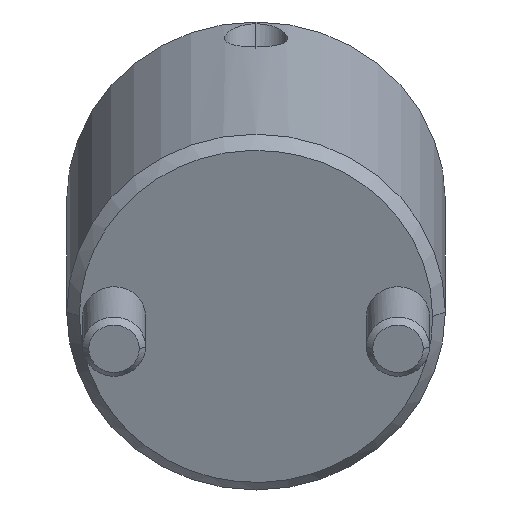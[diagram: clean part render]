
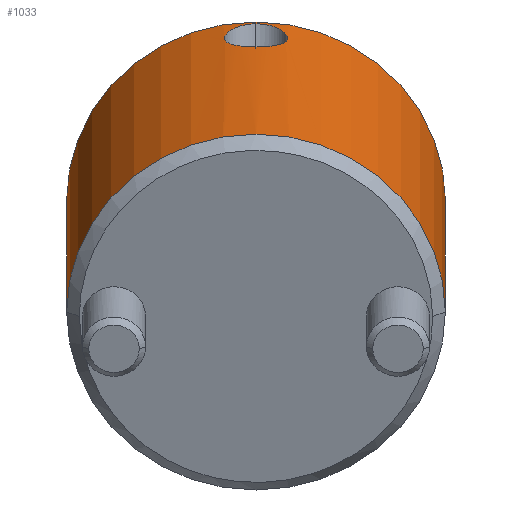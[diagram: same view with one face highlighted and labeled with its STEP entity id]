
A CAD part, front view. The second image highlights one B-rep face of the part: STEP entity #1033.
In plain terms, the highlighted cylindrical face has radius 15 mm (diameter 30 mm), a partial arc.
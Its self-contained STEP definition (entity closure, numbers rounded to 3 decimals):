
#790=CARTESIAN_POINT('Vertex',(0.,15.,1.)) ;
#793=CARTESIAN_POINT('Axis2P3D Location',(0.,0.,1.)) ;
#797=CARTESIAN_POINT('Vertex',(0.,-15.,1.)) ;
#937=CARTESIAN_POINT('Axis2P3D Location',(0.,0.,-1.4)) ;
#942=CARTESIAN_POINT('Line Origine',(0.,15.,-1.4)) ;
#946=CARTESIAN_POINT('Vertex',(0.,15.,27.)) ;
#949=CARTESIAN_POINT('Axis2P3D Location',(0.,0.,27.)) ;
#953=CARTESIAN_POINT('Vertex',(0.,-15.,27.)) ;
#956=CARTESIAN_POINT('Line Origine',(0.,-15.,-1.4)) ;
#968=CARTESIAN_POINT('Control Point',(15.,0.,26.57)) ;
#969=CARTESIAN_POINT('Control Point',(15.,0.072,26.57)) ;
#970=CARTESIAN_POINT('Control Point',(15.,0.143,26.567)) ;
#971=CARTESIAN_POINT('Control Point',(14.999,0.215,26.562)) ;
#972=CARTESIAN_POINT('Control Point',(14.995,0.43,26.536)) ;
#973=CARTESIAN_POINT('Control Point',(14.987,0.644,26.482)) ;
#974=CARTESIAN_POINT('Control Point',(14.98,0.791,26.433)) ;
#975=CARTESIAN_POINT('Control Point',(14.963,1.068,26.315)) ;
#976=CARTESIAN_POINT('Control Point',(14.943,1.321,26.156)) ;
#977=CARTESIAN_POINT('Control Point',(14.931,1.446,26.063)) ;
#978=CARTESIAN_POINT('Control Point',(14.888,1.86,25.706)) ;
#979=CARTESIAN_POINT('Control Point',(14.842,2.185,25.238)) ;
#980=CARTESIAN_POINT('Control Point',(14.813,2.362,24.853)) ;
#981=CARTESIAN_POINT('Control Point',(14.779,2.566,24.037)) ;
#982=CARTESIAN_POINT('Control Point',(14.794,2.477,23.216)) ;
#983=CARTESIAN_POINT('Control Point',(14.815,2.36,22.828)) ;
#984=CARTESIAN_POINT('Control Point',(14.861,2.062,22.266)) ;
#985=CARTESIAN_POINT('Control Point',(14.914,1.62,21.831)) ;
#986=CARTESIAN_POINT('Control Point',(14.933,1.437,21.688)) ;
#987=CARTESIAN_POINT('Control Point',(14.961,1.112,21.49)) ;
#988=CARTESIAN_POINT('Control Point',(14.982,0.75,21.358)) ;
#989=CARTESIAN_POINT('Control Point',(14.989,0.597,21.315)) ;
#990=CARTESIAN_POINT('Control Point',(14.996,0.388,21.273)) ;
#991=CARTESIAN_POINT('Control Point',(14.999,0.179,21.254)) ;
#992=CARTESIAN_POINT('Control Point',(15.,0.12,21.251)) ;
#993=CARTESIAN_POINT('Control Point',(15.,0.06,21.249)) ;
#994=CARTESIAN_POINT('Control Point',(15.,0.,21.249)) ;
#995=CARTESIAN_POINT('Vertex',(15.,0.,26.57)) ;
#997=CARTESIAN_POINT('Vertex',(15.,0.,21.249)) ;
#1001=CARTESIAN_POINT('Control Point',(15.,0.,21.249)) ;
#1002=CARTESIAN_POINT('Control Point',(15.,-0.15,21.249)) ;
#1003=CARTESIAN_POINT('Control Point',(14.998,-0.3,21.26)) ;
#1004=CARTESIAN_POINT('Control Point',(14.994,-0.45,21.283)) ;
#1005=CARTESIAN_POINT('Control Point',(14.983,-0.75,21.353)) ;
#1006=CARTESIAN_POINT('Control Point',(14.965,-1.037,21.468)) ;
#1007=CARTESIAN_POINT('Control Point',(14.955,-1.172,21.535)) ;
#1008=CARTESIAN_POINT('Control Point',(14.91,-1.699,21.849)) ;
#1009=CARTESIAN_POINT('Control Point',(14.854,-2.117,22.318)) ;
#1010=CARTESIAN_POINT('Control Point',(14.816,-2.347,22.745)) ;
#1011=CARTESIAN_POINT('Control Point',(14.787,-2.517,23.376)) ;
#1012=CARTESIAN_POINT('Control Point',(14.79,-2.501,24.027)) ;
#1013=CARTESIAN_POINT('Control Point',(14.793,-2.484,24.194)) ;
#1014=CARTESIAN_POINT('Control Point',(14.805,-2.414,24.603)) ;
#1015=CARTESIAN_POINT('Control Point',(14.827,-2.273,24.995)) ;
#1016=CARTESIAN_POINT('Control Point',(14.844,-2.163,25.22)) ;
#1017=CARTESIAN_POINT('Control Point',(14.881,-1.904,25.631)) ;
#1018=CARTESIAN_POINT('Control Point',(14.919,-1.572,25.969)) ;
#1019=CARTESIAN_POINT('Control Point',(14.937,-1.389,26.118)) ;
#1020=CARTESIAN_POINT('Control Point',(14.959,-1.134,26.282)) ;
#1021=CARTESIAN_POINT('Control Point',(14.976,-0.853,26.403)) ;
#1022=CARTESIAN_POINT('Control Point',(14.98,-0.782,26.431)) ;
#1023=CARTESIAN_POINT('Control Point',(14.989,-0.587,26.497)) ;
#1024=CARTESIAN_POINT('Control Point',(14.996,-0.386,26.543)) ;
#1025=CARTESIAN_POINT('Control Point',(14.999,-0.258,26.561)) ;
#1026=CARTESIAN_POINT('Control Point',(15.,-0.13,26.57)) ;
#1027=CARTESIAN_POINT('Control Point',(15.,0.,26.57)) ;
#794=DIRECTION('Axis2P3D Direction',(0.,0.,1.)) ;
#938=DIRECTION('Axis2P3D Direction',(0.,-0.,1.)) ;
#939=DIRECTION('Axis2P3D XDirection',(0.,-1.,0.)) ;
#943=DIRECTION('Vector Direction',(0.,0.,1.)) ;
#950=DIRECTION('Axis2P3D Direction',(0.,-0.,1.)) ;
#957=DIRECTION('Vector Direction',(0.,0.,1.)) ;
#795=AXIS2_PLACEMENT_3D('Circle Axis2P3D',#793,#794,$) ;
#940=AXIS2_PLACEMENT_3D('Cylinder Axis2P3D',#937,#938,#939) ;
#951=AXIS2_PLACEMENT_3D('Circle Axis2P3D',#949,#950,$) ;
#962=ORIENTED_EDGE('',*,*,#948,.F.) ;
#963=ORIENTED_EDGE('',*,*,#955,.T.) ;
#964=ORIENTED_EDGE('',*,*,#960,.T.) ;
#965=ORIENTED_EDGE('',*,*,#799,.F.) ;
#1030=ORIENTED_EDGE('',*,*,#999,.T.) ;
#1031=ORIENTED_EDGE('',*,*,#1028,.T.) ;
#1032=FACE_BOUND('',#1029,.T.) ;
#944=VECTOR('Line Direction',#943,1.) ;
#958=VECTOR('Line Direction',#957,1.) ;
#1033=ADVANCED_FACE('MANIFOLD_SOLID_BREP #1106',(#966,#1032),#941,.T.) ;
#967=B_SPLINE_CURVE_WITH_KNOTS('',5,(#968,#969,#970,#971,#972,#973,#974,#975,#976,#977,#978,#979,#980,#981,#982,#983,#984,#985,#986,#987,#988,#989,#990,#991,#992,#993,#994),.UNSPECIFIED.,.F.,.U.,(6,3,3,3,3,3,3,3,6),(0.,0.522,1.585,2.689,5.532,8.315,9.952,11.041,11.476),.UNSPECIFIED.) ;
#1000=B_SPLINE_CURVE_WITH_KNOTS('',5,(#1001,#1002,#1003,#1004,#1005,#1006,#1007,#1008,#1009,#1010,#1011,#1012,#1013,#1014,#1015,#1016,#1017,#1018,#1019,#1020,#1021,#1022,#1023,#1024,#1025,#1026,#1027),.UNSPECIFIED.,.F.,.U.,(6,3,3,3,3,3,3,3,6),(0.,1.099,2.195,5.529,6.659,8.361,10.015,10.551,11.487),.UNSPECIFIED.) ;
#796=CIRCLE('generated circle',#795,15.) ;
#952=CIRCLE('generated circle',#951,15.) ;
#941=CYLINDRICAL_SURFACE('generated cylinder',#940,15.) ;
#799=EDGE_CURVE('',#791,#798,#796,.F.) ;
#948=EDGE_CURVE('',#947,#791,#945,.F.) ;
#955=EDGE_CURVE('',#947,#954,#952,.F.) ;
#960=EDGE_CURVE('',#954,#798,#959,.F.) ;
#999=EDGE_CURVE('',#996,#998,#967,.T.) ;
#1028=EDGE_CURVE('',#998,#996,#1000,.T.) ;
#961=EDGE_LOOP('',(#962,#963,#964,#965)) ;
#1029=EDGE_LOOP('',(#1030,#1031)) ;
#966=FACE_OUTER_BOUND('',#961,.T.) ;
#945=LINE('Line',#942,#944) ;
#959=LINE('Line',#956,#958) ;
#791=VERTEX_POINT('',#790) ;
#798=VERTEX_POINT('',#797) ;
#947=VERTEX_POINT('',#946) ;
#954=VERTEX_POINT('',#953) ;
#996=VERTEX_POINT('',#995) ;
#998=VERTEX_POINT('',#997) ;
